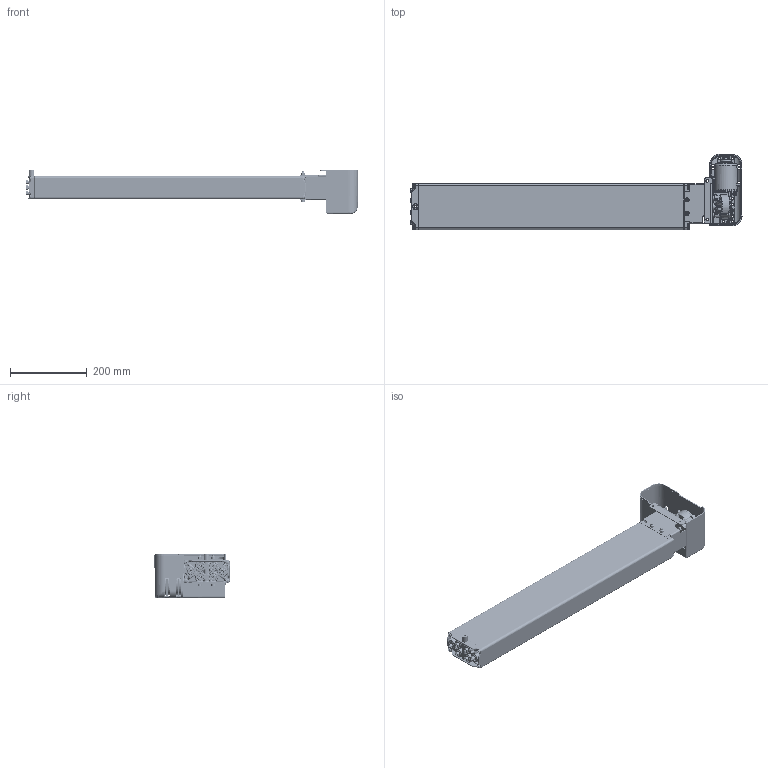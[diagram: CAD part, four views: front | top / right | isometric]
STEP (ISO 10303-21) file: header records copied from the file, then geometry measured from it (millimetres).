
FILE_DESCRIPTION(/* description */ ('Unknown'),/* implementation_level */ '2;1');
FILE_NAME(/* name */ '3X2.00156 Pumpe PB 6430 W mit Antrieb',/* time_stamp */ '2016-09-02T15:24:02+02:00',/* author */ ('Unknown'),/* organization */ ('Unknown'),/* preprocessor_version */ 'ST-DEVELOPER v16.7',/* originating_system */ 'DEX',/* authorisation */ $);
FILE_SCHEMA (('AUTOMOTIVE_DESIGN {1 0 10303 214 3 1 1}'));
Products named in the file (31): 102.00156; 115.00025; 125.00044; 115.00007; 142.00021; 125.00021; 142.00013; 125.00145; 115.00140; 126.00006; 122.00040; 119.00045; 126.00005; 127.00201; 127.00200; 127.00023; 124.00090; Getriebe; Ring; Schraube; Stator; Abdeckplatte; Antriebswelle; 128.00051; 123.00031; 142.00018; 142.00019; 142.00025; 142.00131; 123.00029; 142.00057
Assembly tree (47 placements, depth 3):
  102.00156
    115.00025  x6
      125.00044
      115.00007
      142.00021
      125.00021
    142.00013  x8
    125.00145
    115.00140
      126.00006
      122.00040
    119.00045
    126.00005
    127.00201
      127.00200
      127.00023
    124.00090
      Getriebe
      Ring
      Schraube
      Stator
      Abdeckplatte
      Antriebswelle
    128.00051
    123.00031
    142.00018  x2
    142.00019  x2
    142.00025  x2
    142.00131  x3
    123.00029
    142.00057
Bounding box: 865.42 x 196.04 x 115.45 mm (x, y, z)
Volume: 1374896.5 mm3; surface area: 905201.2 mm2
Topology: 52 solids, 54 shells, 4862 faces, 12306 edges, 7463 vertices
Faces by surface type: bspline 1367, plane 1333, cylinder 1277, cone 515, torus 270, sphere 100
Full cylindrical faces by diameter (mm): 2.5 x4, 3.2 x4, 3.5 x6, 3.9 x5, 4.1 x6, 4.2 x8, 4.4 x5, 4.5 x1, 4.917 x2, 5 x8, 5.5 x5, 6 x6, 6.4 x2, 6.8 x5, 6.917 x12, 7 x1, 8 x14, 8.5 x6, 9 x2, 9.5 x1, 9.8 x8, 10 x8, 10.3 x1, 10.32 x1, 10.4 x7, 11 x5, 13.9 x12, 14 x2, 15 x1, 17 x1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
Entity records: 202554 total; most frequent: CARTESIAN_POINT 105865, ORIENTED_EDGE 19210, DIRECTION 14206, EDGE_CURVE 9605, VERTEX_POINT 6188, AXIS2_PLACEMENT_3D 5593, FACE_BOUND 4587, EDGE_LOOP 4582
